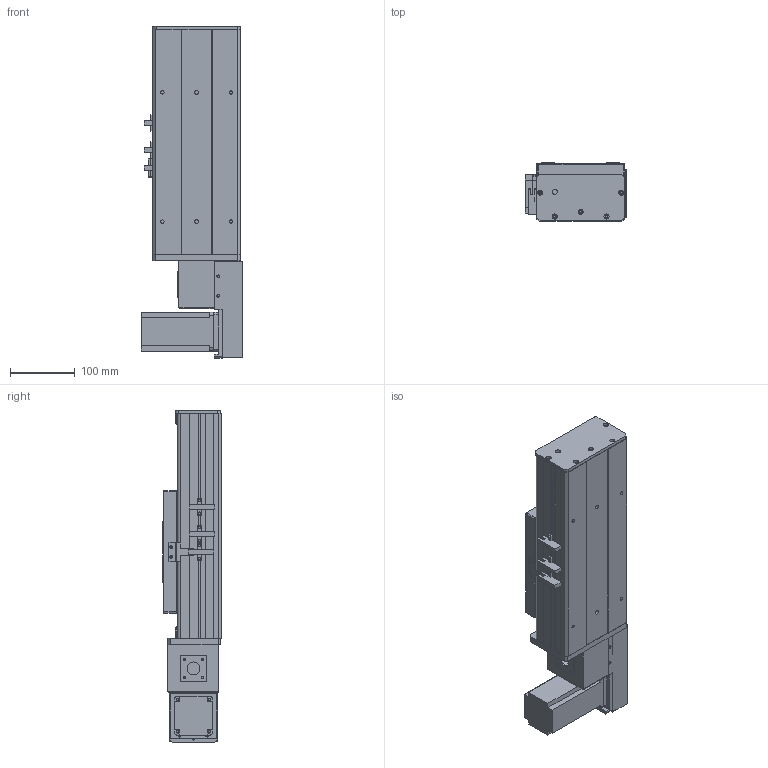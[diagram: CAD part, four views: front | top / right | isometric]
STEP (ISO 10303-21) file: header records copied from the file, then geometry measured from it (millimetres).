
FILE_DESCRIPTION (( 'STEP AP203' ), '1' );
FILE_NAME ('Y135CB-D90-S50-BL-P400W.STEP', '2020-02-17T07:50:31', ( '微软用户' ), ( '微软中国' ), 'SwSTEP 2.0', 'SolidWorks 2017', '' );
FILE_SCHEMA (( 'CONFIG_CONTROL_DESIGN' ));
Length unit declared in the file: millimetre
Products named in the file (18): 135CB---遴掛极.-; Y135C-陔俋离換覜結え-; 0B-埴倛裔啣; 35CB---喘謫眊楊擘啣; 5C--俋欶; 0B-源倛裔啣; Y10B--々湍喘謫眊--666; C-雄赽釱--; 0B-萇儂楊擘啣; Y10B-耜蚾蟀諉啣----; Y135CB-D90-S50-BL-P400W; san松下电机400不带刹车----; Y俋欶BR----; 5CB --掛极耜裔啣-; C-詩湍揤踡え-陔; 135CB--詩湍-CE; Y135CB-耜裔; Y100-135俋离換覜ん--
Assembly tree (21 placements, depth 2):
  Y135CB-D90-S50-BL-P400W
    Y135CB-耜裔
    135CB---遴掛极.-
    35CB---喘謫眊楊擘啣
    Y10B--々湍喘謫眊--666
    Y10B-耜蚾蟀諉啣----
    Y俋欶BR----
    0B-埴倛裔啣
    0B-源倛裔啣
    0B-萇儂楊擘啣
    san松下电机400不带刹车----
    5CB --掛极耜裔啣-  x2
    C-詩湍揤踡え-陔  x2
    135CB--詩湍-CE
    Y100-135俋离換覜ん--  x3
    Y135C-陔俋离換覜結え-
    5C--俋欶
    C-雄赽釱--
Bounding box: 157.5 x 91 x 514.5 mm (x, y, z)
Volume: 1920097.2 mm3; surface area: 727217.6 mm2
Topology: 21 solids, 21 shells, 937 faces, 2461 edges, 1630 vertices
Faces by surface type: plane 462, cylinder 459, cone 16
Entity records: 28667 total; most frequent: DIRECTION 4765, CARTESIAN_POINT 4660, ORIENTED_EDGE 4398, EDGE_CURVE 2199, AXIS2_PLACEMENT_3D 1731, VERTEX_POINT 1458, VECTOR 1303, LINE 1303
